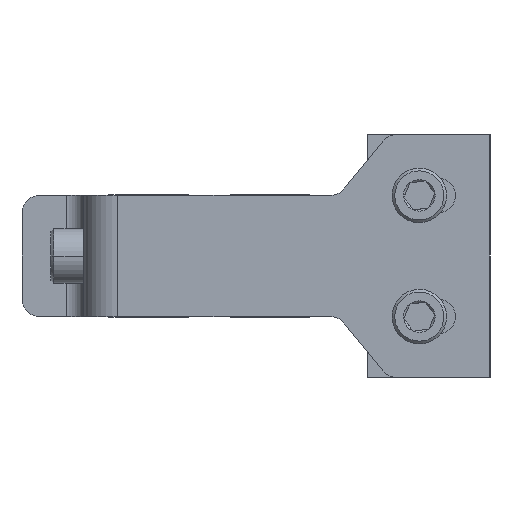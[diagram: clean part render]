
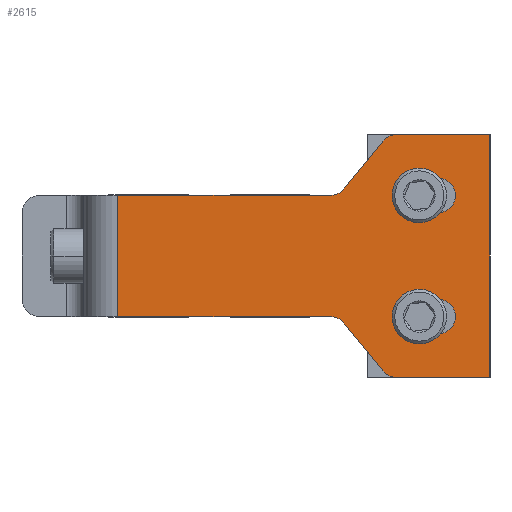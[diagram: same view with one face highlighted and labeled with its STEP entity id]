
A CAD part, left-side view. The second image highlights one B-rep face of the part: STEP entity #2615.
In plain terms, the highlighted planar face has unit normal (-1, 0, 0).
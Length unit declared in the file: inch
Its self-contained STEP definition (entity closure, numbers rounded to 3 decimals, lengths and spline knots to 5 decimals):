
#1977=DIRECTION('',(0.,-0.632,-0.775));
#1978=VECTOR('',#1977,0.446);
#1979=CARTESIAN_POINT('',(0.,1.05449,-0.48347));
#1980=LINE('',#1979,#1978);
#1981=CARTESIAN_POINT('',(0.,1.15134,-0.5625));
#1982=DIRECTION('',(1.,0.,0.));
#1983=DIRECTION('',(0.,0.,1.));
#1984=AXIS2_PLACEMENT_3D('',#1981,#1982,#1983);
#1986=DIRECTION('',(0.,-1.,0.));
#1987=VECTOR('',#1986,1.53666);
#1988=CARTESIAN_POINT('',(0.,2.688,-0.4375));
#1989=LINE('',#1988,#1987);
#1990=DIRECTION('',(0.,1.,0.));
#1991=VECTOR('',#1990,1.53666);
#1992=CARTESIAN_POINT('',(0.,1.15134,0.4375));
#1993=LINE('',#1992,#1991);
#1994=CARTESIAN_POINT('',(0.,1.15134,0.5625));
#1995=DIRECTION('',(1.,0.,0.));
#1996=DIRECTION('',(0.,-0.775,-0.632));
#1997=AXIS2_PLACEMENT_3D('',#1994,#1995,#1996);
#1999=DIRECTION('',(0.,0.632,-0.775));
#2000=VECTOR('',#1999,0.446);
#2001=CARTESIAN_POINT('',(0.,0.77251,0.82903));
#2002=LINE('',#2001,#2000);
#2003=CARTESIAN_POINT('',(0.,0.67566,0.75));
#2004=DIRECTION('',(-1.,0.,0.));
#2005=DIRECTION('',(0.,0.,1.));
#2006=AXIS2_PLACEMENT_3D('',#2003,#2004,#2005);
#2008=DIRECTION('',(0.,0.,1.));
#2009=VECTOR('',#2008,1.75);
#2010=CARTESIAN_POINT('',(0.,0.,-0.875));
#2011=LINE('',#2010,#2009);
#2012=DIRECTION('',(0.,-1.,0.));
#2013=VECTOR('',#2012,0.67566);
#2014=CARTESIAN_POINT('',(0.,0.67566,-0.875));
#2015=LINE('',#2014,#2013);
#2016=CARTESIAN_POINT('',(0.,0.67566,-0.75));
#2017=DIRECTION('',(-1.,0.,0.));
#2018=DIRECTION('',(0.,0.775,-0.632));
#2019=AXIS2_PLACEMENT_3D('',#2016,#2017,#2018);
#2021=CARTESIAN_POINT('',(0.,0.51,0.4375));
#2022=DIRECTION('',(1.,0.,0.));
#2023=DIRECTION('',(0.,0.,-1.));
#2024=AXIS2_PLACEMENT_3D('',#2021,#2022,#2023);
#2026=DIRECTION('',(0.,1.,0.));
#2027=VECTOR('',#2026,0.135);
#2028=CARTESIAN_POINT('',(0.,0.375,0.3125));
#2029=LINE('',#2028,#2027);
#2030=CARTESIAN_POINT('',(0.,0.375,0.4375));
#2031=DIRECTION('',(1.,0.,0.));
#2032=DIRECTION('',(0.,0.,1.));
#2033=AXIS2_PLACEMENT_3D('',#2030,#2031,#2032);
#2035=DIRECTION('',(0.,-1.,0.));
#2036=VECTOR('',#2035,0.135);
#2037=CARTESIAN_POINT('',(0.,0.51,0.5625));
#2038=LINE('',#2037,#2036);
#2039=CARTESIAN_POINT('',(0.,0.51,-0.4375));
#2040=DIRECTION('',(1.,0.,0.));
#2041=DIRECTION('',(0.,0.,-1.));
#2042=AXIS2_PLACEMENT_3D('',#2039,#2040,#2041);
#2044=DIRECTION('',(0.,1.,0.));
#2045=VECTOR('',#2044,0.135);
#2046=CARTESIAN_POINT('',(0.,0.375,-0.5625));
#2047=LINE('',#2046,#2045);
#2048=CARTESIAN_POINT('',(0.,0.375,-0.4375));
#2049=DIRECTION('',(1.,0.,0.));
#2050=DIRECTION('',(0.,0.,1.));
#2051=AXIS2_PLACEMENT_3D('',#2048,#2049,#2050);
#2053=DIRECTION('',(0.,-1.,0.));
#2054=VECTOR('',#2053,0.135);
#2055=CARTESIAN_POINT('',(0.,0.51,-0.3125));
#2056=LINE('',#2055,#2054);
#2129=DIRECTION('',(0.,-1.,0.));
#2130=VECTOR('',#2129,0.67566);
#2131=CARTESIAN_POINT('',(0.,0.67566,0.875));
#2132=LINE('',#2131,#2130);
#2175=DIRECTION('',(0.,0.,1.));
#2176=VECTOR('',#2175,0.875);
#2177=CARTESIAN_POINT('',(0.,2.688,-0.4375));
#2178=LINE('',#2177,#2176);
#2425=CARTESIAN_POINT('',(0.,0.67566,0.875));
#2427=VERTEX_POINT('',#2425);
#2441=CARTESIAN_POINT('',(0.,0.375,0.3125));
#2442=CARTESIAN_POINT('',(0.,0.51,0.3125));
#2443=VERTEX_POINT('',#2441);
#2444=VERTEX_POINT('',#2442);
#2445=CARTESIAN_POINT('',(0.,1.05449,-0.48347));
#2446=CARTESIAN_POINT('',(0.,0.77251,-0.82903));
#2447=VERTEX_POINT('',#2445);
#2448=VERTEX_POINT('',#2446);
#2461=CARTESIAN_POINT('',(0.,0.,-0.875));
#2462=CARTESIAN_POINT('',(0.,0.,0.875));
#2463=VERTEX_POINT('',#2461);
#2464=VERTEX_POINT('',#2462);
#2465=CARTESIAN_POINT('',(0.,0.51,0.5625));
#2466=VERTEX_POINT('',#2465);
#2481=CARTESIAN_POINT('',(0.,0.51,-0.5625));
#2483=VERTEX_POINT('',#2481);
#2499=CARTESIAN_POINT('',(0.,0.77251,0.82903));
#2500=VERTEX_POINT('',#2499);
#2501=CARTESIAN_POINT('',(0.,1.15134,-0.4375));
#2502=VERTEX_POINT('',#2501);
#2509=CARTESIAN_POINT('',(0.,0.67566,-0.875));
#2510=VERTEX_POINT('',#2509);
#2511=CARTESIAN_POINT('',(0.,0.375,0.5625));
#2512=VERTEX_POINT('',#2511);
#2513=CARTESIAN_POINT('',(0.,2.688,-0.4375));
#2514=VERTEX_POINT('',#2513);
#2515=CARTESIAN_POINT('',(0.,1.05449,0.48347));
#2516=CARTESIAN_POINT('',(0.,1.15134,0.4375));
#2517=VERTEX_POINT('',#2515);
#2518=VERTEX_POINT('',#2516);
#2521=CARTESIAN_POINT('',(0.,0.51,-0.3125));
#2522=CARTESIAN_POINT('',(0.,0.375,-0.3125));
#2523=VERTEX_POINT('',#2521);
#2524=VERTEX_POINT('',#2522);
#2533=CARTESIAN_POINT('',(0.,0.375,-0.5625));
#2534=VERTEX_POINT('',#2533);
#2539=CARTESIAN_POINT('',(0.,2.688,0.4375));
#2540=VERTEX_POINT('',#2539);
#2565=CARTESIAN_POINT('',(0.,0.,0.875));
#2566=DIRECTION('',(-1.,0.,0.));
#2567=DIRECTION('',(0.,0.,1.));
#2568=AXIS2_PLACEMENT_3D('',#2565,#2566,#2567);
#2569=PLANE('',#2568);
#2571=ORIENTED_EDGE('',*,*,#2570,.F.);
#2573=ORIENTED_EDGE('',*,*,#2572,.F.);
#2575=ORIENTED_EDGE('',*,*,#2574,.F.);
#2577=ORIENTED_EDGE('',*,*,#2576,.T.);
#2579=ORIENTED_EDGE('',*,*,#2578,.F.);
#2581=ORIENTED_EDGE('',*,*,#2580,.F.);
#2583=ORIENTED_EDGE('',*,*,#2582,.F.);
#2585=ORIENTED_EDGE('',*,*,#2584,.F.);
#2587=ORIENTED_EDGE('',*,*,#2586,.T.);
#2589=ORIENTED_EDGE('',*,*,#2588,.F.);
#2590=ORIENTED_EDGE('',*,*,#2554,.F.);
#2592=ORIENTED_EDGE('',*,*,#2591,.F.);
#2593=EDGE_LOOP('',(#2571,#2573,#2575,#2577,#2579,#2581,#2583,#2585,#2587,#2589,
#2590,#2592));
#2594=FACE_OUTER_BOUND('',#2593,.F.);
#2596=ORIENTED_EDGE('',*,*,#2595,.F.);
#2598=ORIENTED_EDGE('',*,*,#2597,.F.);
#2600=ORIENTED_EDGE('',*,*,#2599,.F.);
#2602=ORIENTED_EDGE('',*,*,#2601,.F.);
#2603=EDGE_LOOP('',(#2596,#2598,#2600,#2602));
#2604=FACE_BOUND('',#2603,.F.);
#2606=ORIENTED_EDGE('',*,*,#2605,.F.);
#2608=ORIENTED_EDGE('',*,*,#2607,.F.);
#2610=ORIENTED_EDGE('',*,*,#2609,.F.);
#2612=ORIENTED_EDGE('',*,*,#2611,.F.);
#2613=EDGE_LOOP('',(#2606,#2608,#2610,#2612));
#2614=FACE_BOUND('',#2613,.F.);
#1985=CIRCLE('',#1984,0.125);
#1998=CIRCLE('',#1997,0.125);
#2007=CIRCLE('',#2006,0.125);
#2020=CIRCLE('',#2019,0.125);
#2025=CIRCLE('',#2024,0.125);
#2034=CIRCLE('',#2033,0.125);
#2043=CIRCLE('',#2042,0.125);
#2052=CIRCLE('',#2051,0.125);
#2554=EDGE_CURVE('',#2510,#2463,#2015,.T.);
#2570=EDGE_CURVE('',#2447,#2448,#1980,.T.);
#2572=EDGE_CURVE('',#2502,#2447,#1985,.T.);
#2574=EDGE_CURVE('',#2514,#2502,#1989,.T.);
#2576=EDGE_CURVE('',#2514,#2540,#2178,.T.);
#2578=EDGE_CURVE('',#2518,#2540,#1993,.T.);
#2580=EDGE_CURVE('',#2517,#2518,#1998,.T.);
#2582=EDGE_CURVE('',#2500,#2517,#2002,.T.);
#2584=EDGE_CURVE('',#2427,#2500,#2007,.T.);
#2586=EDGE_CURVE('',#2427,#2464,#2132,.T.);
#2588=EDGE_CURVE('',#2463,#2464,#2011,.T.);
#2591=EDGE_CURVE('',#2448,#2510,#2020,.T.);
#2595=EDGE_CURVE('',#2444,#2466,#2025,.T.);
#2597=EDGE_CURVE('',#2443,#2444,#2029,.T.);
#2599=EDGE_CURVE('',#2512,#2443,#2034,.T.);
#2601=EDGE_CURVE('',#2466,#2512,#2038,.T.);
#2605=EDGE_CURVE('',#2483,#2523,#2043,.T.);
#2607=EDGE_CURVE('',#2534,#2483,#2047,.T.);
#2609=EDGE_CURVE('',#2524,#2534,#2052,.T.);
#2611=EDGE_CURVE('',#2523,#2524,#2056,.T.);
#2615=ADVANCED_FACE('',(#2594,#2604,#2614),#2569,.T.);
